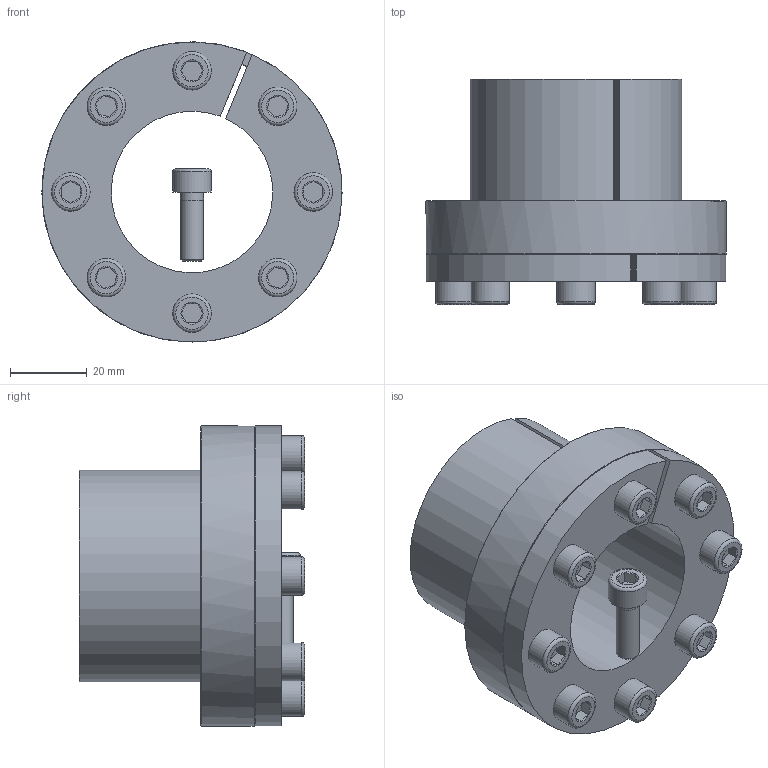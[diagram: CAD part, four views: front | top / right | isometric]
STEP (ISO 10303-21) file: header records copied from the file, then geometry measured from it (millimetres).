
FILE_DESCRIPTION( ( 'Unknown' ), '1' );
FILE_NAME( 'C:/Dokumente und Einstellungen/Sven/Desktop/homepage/cad - homepage/KBS80/KBS 80 - 42 x 55.stp', 'Unknown', ( 'Unknown' ), ( 'Unknown' ), 'XStep 1.0', 'Unknown', ' ' );
FILE_SCHEMA( ( 'automotive_design' ) );
Length unit declared in the file: millimetre
Products named in the file (10): Assem1; KBS 80 - 42 x 55; ISO EN DIN 4762 M6x18; ISO EN DIN 4762 M6x18-oa0; ISO EN DIN 4762 M6x18-oa1; ISO EN DIN 4762 M6x18-oa2; ISO EN DIN 4762 M6x18-oa3; ISO EN DIN 4762 M6x18-oa4; ISO EN DIN 4762 M6x18-oa5; ISO EN DIN 4762 M6x18-oa6
Bounding box: 78 x 58.5 x 78 mm (x, y, z)
Volume: 207611.2 mm3; surface area: 67719.2 mm2
Topology: 18 solids, 18 shells, 456 faces, 854 edges, 496 vertices
Faces by surface type: plane 208, cone 126, cylinder 90, torus 32
Full cylindrical faces by diameter (mm): 5 x16, 6 x48, 10 x16, 78 x2
Entity records: 5767 total; most frequent: CARTESIAN_POINT 1201, DIRECTION 932, ORIENTED_EDGE 682, AXIS2_PLACEMENT_3D 409, EDGE_LOOP 345, EDGE_CURVE 341, FACE_OUTER_BOUND 285, VERTEX_POINT 230
